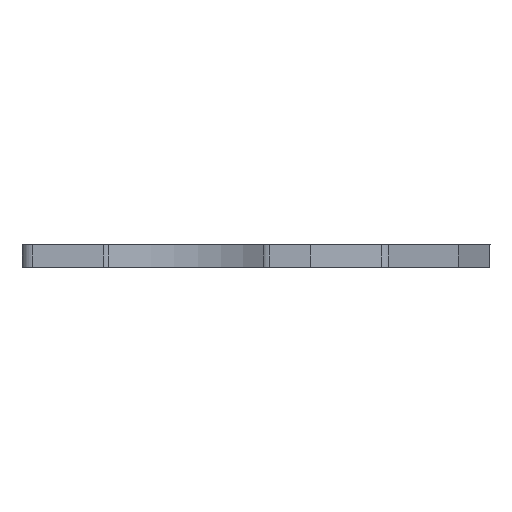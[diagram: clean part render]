
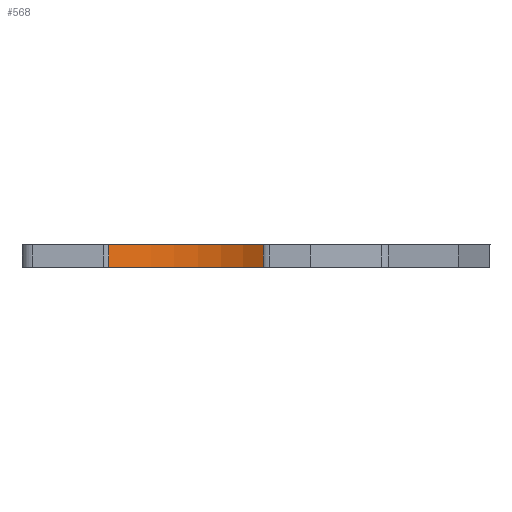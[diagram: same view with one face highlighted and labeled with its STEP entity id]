
A CAD part, left-side view. The second image highlights one B-rep face of the part: STEP entity #568.
In plain terms, the highlighted cylindrical face has radius 13.2 mm (diameter 26.4 mm), a partial arc.
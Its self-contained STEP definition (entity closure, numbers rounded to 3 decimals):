
#104=CARTESIAN_POINT('',(-42.327,15.7,-56.87));
#105=VERTEX_POINT('',#104);
#113=CARTESIAN_POINT('',(-42.327,30.7,-56.87));
#114=VERTEX_POINT('',#113);
#115=CARTESIAN_POINT('',(-53.189,23.2,-56.87));
#116=DIRECTION('',(0.823,-0.568,0.));
#117=DIRECTION('',(0.,0.,1.));
#118=AXIS2_PLACEMENT_3D('',#115,#117,#116);
#119=CIRCLE('',#118,13.2);
#120=EDGE_CURVE('',#105,#114,#119,.T.);
#524=CARTESIAN_POINT('',(-42.327,15.7,-54.67));
#525=VERTEX_POINT('',#524);
#533=CARTESIAN_POINT('',(-42.327,15.7,-54.67));
#534=DIRECTION('',(0.,0.,-1.));
#535=VECTOR('',#534,2.2);
#536=LINE('',#533,#535);
#537=EDGE_CURVE('',#525,#105,#536,.T.);
#544=CARTESIAN_POINT('',(-53.189,23.2,-54.67));
#545=DIRECTION('',(0.823,0.568,0.));
#546=DIRECTION('',(0.,0.,-1.));
#547=AXIS2_PLACEMENT_3D('',#544,#546,#545);
#548=CYLINDRICAL_SURFACE('',#547,13.2);
#549=CARTESIAN_POINT('',(-42.327,30.7,-54.67));
#550=VERTEX_POINT('',#549);
#551=CARTESIAN_POINT('',(-53.189,23.2,-54.67));
#552=DIRECTION('',(0.823,-0.568,0.));
#553=DIRECTION('',(0.,0.,1.));
#554=AXIS2_PLACEMENT_3D('',#551,#553,#552);
#555=CIRCLE('',#554,13.2);
#556=EDGE_CURVE('',#525,#550,#555,.T.);
#557=ORIENTED_EDGE('',*,*,#556,.T.);
#558=CARTESIAN_POINT('',(-42.327,30.7,-54.67));
#559=DIRECTION('',(0.,0.,-1.));
#560=VECTOR('',#559,2.2);
#561=LINE('',#558,#560);
#562=EDGE_CURVE('',#550,#114,#561,.T.);
#563=ORIENTED_EDGE('',*,*,#562,.T.);
#564=ORIENTED_EDGE('',*,*,#120,.F.);
#565=ORIENTED_EDGE('',*,*,#537,.F.);
#566=EDGE_LOOP('',(#557,#563,#564,#565));
#567=FACE_OUTER_BOUND('',#566,.T.);
#568=ADVANCED_FACE('',(#567),#548,.F.);
